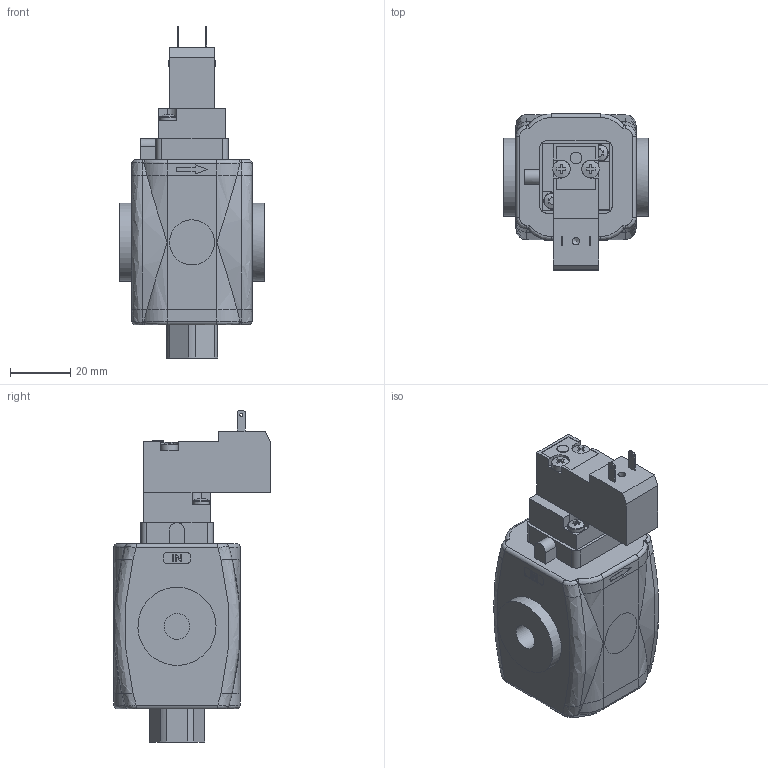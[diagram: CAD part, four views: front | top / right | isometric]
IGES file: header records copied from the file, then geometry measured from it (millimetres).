
Global section: file name: No Iges File Name specified; native system: Autodesk Inventor 2013; preprocessor: AutoDesk Inventor Iges Exporter R2013; author: valotma1; date: 20130610.105811; units: millimetre
Bounding box: 48 x 52 x 110.5 mm (x, y, z)
Volume: 114607.5 mm3; surface area: 21200.4 mm2
Topology: 6 solids, 6 shells, 405 faces, 972 edges, 611 vertices
Faces by surface type: bspline 405
